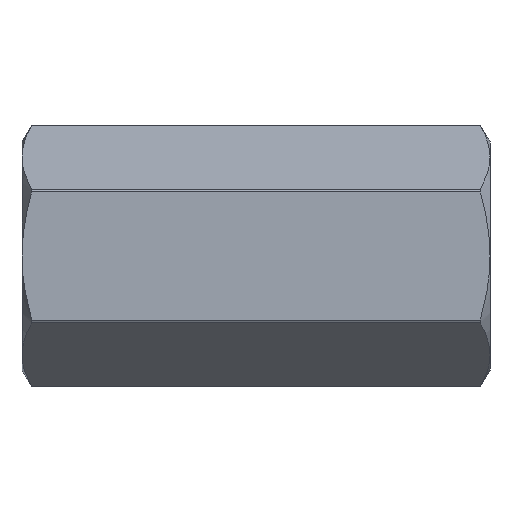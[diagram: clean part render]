
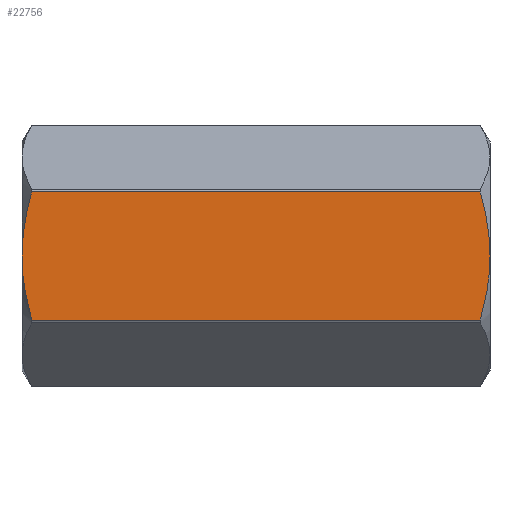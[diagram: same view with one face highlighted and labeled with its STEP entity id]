
A CAD part, front view. The second image highlights one B-rep face of the part: STEP entity #22756.
In plain terms, the highlighted planar face has unit normal (0, -1, 0).
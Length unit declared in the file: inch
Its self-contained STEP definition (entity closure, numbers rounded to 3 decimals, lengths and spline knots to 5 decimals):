
#22 = CARTESIAN_POINT ( 'NONE',  ( 0.87304, -0.40354, 0.11228 ) ) ;
#52 = CARTESIAN_POINT ( 'NONE',  ( -0.77004, -0.40354, 0.04787 ) ) ;
#199 = CARTESIAN_POINT ( 'NONE',  ( -0.73756, -0.40354, -0.22616 ) ) ;
#829 = EDGE_CURVE ( 'NONE', #26817, #11277, #24586, .T. ) ;
#1074 = LINE ( 'NONE', #24948, #7132 ) ;
#1454 = DIRECTION ( 'NONE',  ( 0., 0., -1. ) ) ;
#1575 = CARTESIAN_POINT ( 'NONE',  ( 0.87269, -0.40354, -0.11449 ) ) ;
#2008 = CARTESIAN_POINT ( 'NONE',  ( 0.85333, -0.40354, -0.20654 ) ) ;
#2086 = CARTESIAN_POINT ( 'NONE',  ( -0.76705, -0.40354, -0.08071 ) ) ;
#2343 = CARTESIAN_POINT ( 'NONE',  ( 0.87737, -0.40354, 0.08077 ) ) ;
#2508 = CARTESIAN_POINT ( 'NONE',  ( -0.76218, -0.40354, -0.11627 ) ) ;
#2686 = CARTESIAN_POINT ( 'NONE',  ( -1.58602, -0.40354, -0.22616 ) ) ;
#2801 = EDGE_CURVE ( 'NONE', #11277, #25133, #27353, .T. ) ;
#3218 = EDGE_LOOP ( 'NONE', ( #13636, #8302, #13315, #22132, #12810, #19476 ) ) ;
#3885 = CARTESIAN_POINT ( 'NONE',  ( 0.87886, -0.40354, -0.0752 ) ) ;
#4056 = PLANE ( 'NONE',  #11758 ) ;
#4221 = CARTESIAN_POINT ( 'NONE',  ( 0.86708, -0.40354, 0.15005 ) ) ;
#4251 = CARTESIAN_POINT ( 'NONE',  ( -0.77165, -0.40354, 0. ) ) ;
#4390 = CARTESIAN_POINT ( 'NONE',  ( -0.76853, -0.40354, 0.067 ) ) ;
#4506 = CARTESIAN_POINT ( 'NONE',  ( 0.87332, -0.40354, 0.11046 ) ) ;
#4675 = CARTESIAN_POINT ( 'NONE',  ( -0.74782, -0.40353, -0.18796 ) ) ;
#5175 = VERTEX_POINT ( 'NONE', #19025 ) ;
#6123 = CARTESIAN_POINT ( 'NONE',  ( -0.76757, -0.40354, 0.0765 ) ) ;
#6343 = CARTESIAN_POINT ( 'NONE',  ( 0.86061, -0.40354, -0.17778 ) ) ;
#6419 = CARTESIAN_POINT ( 'NONE',  ( -0.75666, -0.40354, 0.15119 ) ) ;
#6705 = CARTESIAN_POINT ( 'NONE',  ( -0.75599, -0.40354, -0.15073 ) ) ;
#7132 = VECTOR ( 'NONE', #25079, 39.37008 ) ;
#8218 = CARTESIAN_POINT ( 'NONE',  ( 0.87153, -0.40354, -0.1217 ) ) ;
#8302 = ORIENTED_EDGE ( 'NONE', *, *, #9868, .T. ) ;
#8579 = CARTESIAN_POINT ( 'NONE',  ( -0.76492, -0.40354, 0.09794 ) ) ;
#9115 = CARTESIAN_POINT ( 'NONE',  ( 0.88189, -0.40354, 0.01875 ) ) ;
#9868 = EDGE_CURVE ( 'NONE', #21275, #26817, #21687, .T. ) ;
#10557 = FACE_OUTER_BOUND ( 'NONE', #3218, .T. ) ;
#10819 = CARTESIAN_POINT ( 'NONE',  ( 0.88189, -0.40354, 0. ) ) ;
#10895 = CARTESIAN_POINT ( 'NONE',  ( -0.73756, -0.40354, 0.22616 ) ) ;
#10896 = CARTESIAN_POINT ( 'NONE',  ( -0.76894, -0.40355, -0.0619 ) ) ;
#11223 = CARTESIAN_POINT ( 'NONE',  ( 0.84779, -0.40354, -0.22616 ) ) ;
#11277 = VERTEX_POINT ( 'NONE', #11973 ) ;
#11500 = DIRECTION ( 'NONE',  ( 1., 0., 0. ) ) ;
#11758 = AXIS2_PLACEMENT_3D ( 'NONE', #21286, #21424, #1454 ) ;
#11973 = CARTESIAN_POINT ( 'NONE',  ( 0.88189, -0.40354, 0. ) ) ;
#12561 = CARTESIAN_POINT ( 'NONE',  ( 0.87261, -0.40354, -0.115 ) ) ;
#12778 = CARTESIAN_POINT ( 'NONE',  ( -0.76585, -0.40354, 0.09078 ) ) ;
#12810 = ORIENTED_EDGE ( 'NONE', *, *, #25581, .F. ) ;
#12853 = CARTESIAN_POINT ( 'NONE',  ( 0.8702, -0.40354, -0.12956 ) ) ;
#13067 = CARTESIAN_POINT ( 'NONE',  ( -0.76106, -0.40354, -0.12308 ) ) ;
#13179 = CARTESIAN_POINT ( 'NONE',  ( 0.88189, -0.40354, 0. ) ) ;
#13315 = ORIENTED_EDGE ( 'NONE', *, *, #829, .T. ) ;
#13325 = CARTESIAN_POINT ( 'NONE',  ( 0.87285, -0.40354, 0.1135 ) ) ;
#13362 = CARTESIAN_POINT ( 'NONE',  ( -0.75863, -0.40354, -0.13688 ) ) ;
#13498 = CARTESIAN_POINT ( 'NONE',  ( -0.76757, -0.40354, -0.07599 ) ) ;
#13636 = ORIENTED_EDGE ( 'NONE', *, *, #14302, .F. ) ;
#14302 = EDGE_CURVE ( 'NONE', #21275, #15496, #16511, .T. ) ;
#14824 = CARTESIAN_POINT ( 'NONE',  ( -0.7628, -0.40354, 0.11231 ) ) ;
#15104 = CARTESIAN_POINT ( 'NONE',  ( -0.76536, -0.40354, -0.09488 ) ) ;
#15319 = CARTESIAN_POINT ( 'NONE',  ( 0.87244, -0.40354, -0.11611 ) ) ;
#15496 = VERTEX_POINT ( 'NONE', #23336 ) ;
#15541 = CARTESIAN_POINT ( 'NONE',  ( -0.74301, -0.40354, -0.20686 ) ) ;
#16511 = B_SPLINE_CURVE_WITH_KNOTS ( 'NONE', 3,
 ( #199, #15541, #4675, #26239, #6705, #13362, #24087, #13067, #17992, #2508, #26672, #15104, #2086, #13498, #24213, #10896, #28549, #22331, #22202 ),
 .UNSPECIFIED., .F., .F.,
 ( 4, 2, 2, 1, 2, 2, 2, 2, 2, 4 ),
 ( 0., 0.25, 0.375, 0.4375, 0.46875, 0.5, 0.625, 0.6875, 0.75, 1. ),
 .UNSPECIFIED. ) ;
#17128 = CARTESIAN_POINT ( 'NONE',  ( -0.77087, -0.40354, 0.0335 ) ) ;
#17198 = CARTESIAN_POINT ( 'NONE',  ( 0.84779, -0.40354, -0.22616 ) ) ;
#17416 = CARTESIAN_POINT ( 'NONE',  ( -0.76317, -0.40354, 0.10991 ) ) ;
#17489 = CARTESIAN_POINT ( 'NONE',  ( 0.8673, -0.40354, -0.14543 ) ) ;
#17675 = CARTESIAN_POINT ( 'NONE',  ( 0.87275, -0.40354, 0.11417 ) ) ;
#17992 = CARTESIAN_POINT ( 'NONE',  ( -0.76182, -0.40354, -0.11848 ) ) ;
#18229 = B_SPLINE_CURVE_WITH_KNOTS ( 'NONE', 3,
 ( #4251, #23784, #19608, #17128, #25947, #52, #21617, #4390, #6123, #12778, #8579, #21905, #17416, #14824, #26238, #6419, #23644, #10895 ),
 .UNSPECIFIED., .F., .F.,
 ( 4, 2, 2, 2, 2, 1, 1, 2, 2, 4 ),
 ( 0., 0.125, 0.1875, 0.25, 0.375, 0.4375, 0.46875, 0.48438, 0.5, 1. ),
 .UNSPECIFIED. ) ;
#19025 = CARTESIAN_POINT ( 'NONE',  ( -0.73756, -0.40354, 0.22616 ) ) ;
#19476 = ORIENTED_EDGE ( 'NONE', *, *, #19605, .F. ) ;
#19605 = EDGE_CURVE ( 'NONE', #15496, #5175, #18229, .T. ) ;
#19608 = CARTESIAN_POINT ( 'NONE',  ( -0.77146, -0.40354, 0.01915 ) ) ;
#19879 = CARTESIAN_POINT ( 'NONE',  ( 0.87396, -0.40354, 0.1062 ) ) ;
#21275 = VERTEX_POINT ( 'NONE', #23589 ) ;
#21286 = CARTESIAN_POINT ( 'NONE',  ( -1.58602, -0.40354, 0.22616 ) ) ;
#21291 = CARTESIAN_POINT ( 'NONE',  ( 0.84779, -0.40354, 0.22616 ) ) ;
#21424 = DIRECTION ( 'NONE',  ( 0., -1., 0. ) ) ;
#21617 = CARTESIAN_POINT ( 'NONE',  ( -0.76969, -0.40354, 0.05274 ) ) ;
#21687 = LINE ( 'NONE', #2686, #28552 ) ;
#21905 = CARTESIAN_POINT ( 'NONE',  ( -0.76371, -0.40354, 0.10631 ) ) ;
#22021 = CARTESIAN_POINT ( 'NONE',  ( 0.88074, -0.40354, 0.04714 ) ) ;
#22132 = ORIENTED_EDGE ( 'NONE', *, *, #2801, .T. ) ;
#22170 = CARTESIAN_POINT ( 'NONE',  ( 0.85879, -0.40354, 0.18719 ) ) ;
#22202 = CARTESIAN_POINT ( 'NONE',  ( -0.77165, -0.40354, 0. ) ) ;
#22331 = CARTESIAN_POINT ( 'NONE',  ( -0.77165, -0.40354, -0.01905 ) ) ;
#22756 = ADVANCED_FACE ( 'NONE', ( #10557 ), #4056, .T. ) ;
#23336 = CARTESIAN_POINT ( 'NONE',  ( -0.77165, -0.40354, 0. ) ) ;
#23574 = CARTESIAN_POINT ( 'NONE',  ( 0.88189, -0.40354, -0.03724 ) ) ;
#23589 = CARTESIAN_POINT ( 'NONE',  ( -0.73756, -0.40354, -0.22616 ) ) ;
#23644 = CARTESIAN_POINT ( 'NONE',  ( -0.74838, -0.40354, 0.18784 ) ) ;
#23711 = CARTESIAN_POINT ( 'NONE',  ( 0.87217, -0.40354, -0.11779 ) ) ;
#23784 = CARTESIAN_POINT ( 'NONE',  ( -0.77165, -0.40354, 0.0096 ) ) ;
#24087 = CARTESIAN_POINT ( 'NONE',  ( -0.75989, -0.40354, -0.12998 ) ) ;
#24213 = CARTESIAN_POINT ( 'NONE',  ( -0.76852, -0.40355, -0.06655 ) ) ;
#24586 = B_SPLINE_CURVE_WITH_KNOTS ( 'NONE', 3,
 ( #17198, #2008, #6343, #17489, #12853, #8218, #23711, #15319, #12561, #1575, #3885, #23574, #10819 ),
 .UNSPECIFIED., .F., .F.,
 ( 4, 1, 1, 1, 1, 1, 2, 2, 4 ),
 ( 0., 0.25, 0.375, 0.4375, 0.46875, 0.48437, 0.49219, 0.5, 1. ),
 .UNSPECIFIED. ) ;
#24948 = CARTESIAN_POINT ( 'NONE',  ( -1.58602, -0.40354, 0.22616 ) ) ;
#25079 = DIRECTION ( 'NONE',  ( 1., 0., 0. ) ) ;
#25133 = VERTEX_POINT ( 'NONE', #21291 ) ;
#25581 = EDGE_CURVE ( 'NONE', #5175, #25133, #1074, .T. ) ;
#25947 = CARTESIAN_POINT ( 'NONE',  ( -0.77062, -0.40354, 0.03829 ) ) ;
#26238 = CARTESIAN_POINT ( 'NONE',  ( -0.7626, -0.40354, 0.11357 ) ) ;
#26239 = CARTESIAN_POINT ( 'NONE',  ( -0.75406, -0.40353, -0.15999 ) ) ;
#26488 = CARTESIAN_POINT ( 'NONE',  ( 0.84779, -0.40354, 0.22616 ) ) ;
#26672 = CARTESIAN_POINT ( 'NONE',  ( -0.76405, -0.40354, -0.10436 ) ) ;
#26779 = CARTESIAN_POINT ( 'NONE',  ( 0.87518, -0.40354, 0.0977 ) ) ;
#26817 = VERTEX_POINT ( 'NONE', #11223 ) ;
#27353 = B_SPLINE_CURVE_WITH_KNOTS ( 'NONE', 3,
 ( #13179, #9115, #22021, #2343, #26779, #19879, #4506, #22, #13325, #17675, #4221, #22170, #26488 ),
 .UNSPECIFIED., .F., .F.,
 ( 4, 1, 1, 1, 1, 1, 2, 2, 4 ),
 ( 0., 0.25, 0.375, 0.4375, 0.46875, 0.48438, 0.49219, 0.5, 1. ),
 .UNSPECIFIED. ) ;
#28549 = CARTESIAN_POINT ( 'NONE',  ( -0.77088, -0.40355, -0.03796 ) ) ;
#28552 = VECTOR ( 'NONE', #11500, 39.37008 ) ;
